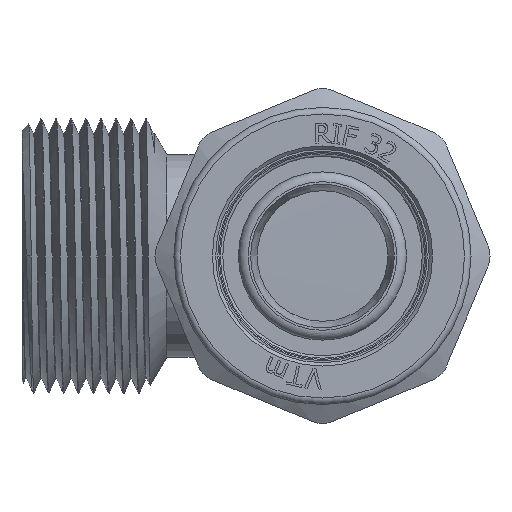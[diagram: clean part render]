
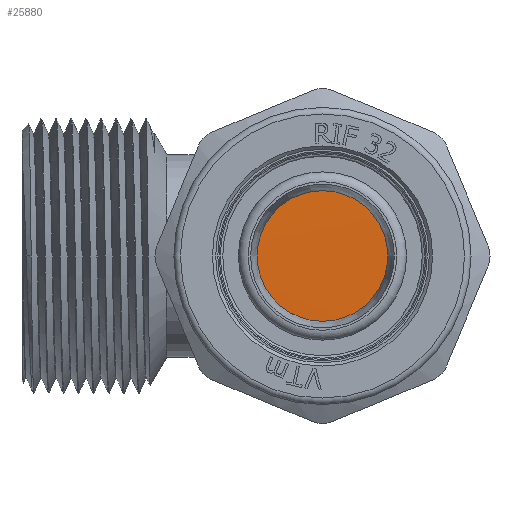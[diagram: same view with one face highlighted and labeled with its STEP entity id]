
A CAD part, left-side view. The second image highlights one B-rep face of the part: STEP entity #25880.
In plain terms, the highlighted cylindrical face has radius 21 mm (diameter 42 mm), a full revolution.
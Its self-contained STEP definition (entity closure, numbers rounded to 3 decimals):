
#2023=FACE_OUTER_BOUND('',#3484,.T.);
#3484=EDGE_LOOP('',(#17386,#17387,#17388));
#5071=B_SPLINE_CURVE_WITH_KNOTS('',3,(#33937,#33938,#33939,#33940,#33941,
#33942,#33943,#33944,#33945,#33946,#33947,#33948,#33949,#33950,#33951,#33952,
#33953),.UNSPECIFIED.,.F.,.F.,(4,1,1,1,1,1,1,1,1,1,1,1,1,1,4),(37.699,
37.812,38.309,38.807,39.304,39.801,
40.298,40.795,41.292,41.789,42.286,
42.783,43.28,43.777,43.982),
 .UNSPECIFIED.);
#6799=LINE('',#33061,#8585);
#6811=LINE('',#33936,#8597);
#8585=VECTOR('',#28651,21.);
#8597=VECTOR('',#28693,21.);
#10373=VERTEX_POINT('',#33059);
#10374=VERTEX_POINT('',#33060);
#10402=VERTEX_POINT('',#33935);
#13177=EDGE_CURVE('',#10373,#10374,#6799,.T.);
#13215=EDGE_CURVE('',#10402,#10374,#6811,.T.);
#13216=EDGE_CURVE('',#10402,#10373,#5071,.T.);
#17386=ORIENTED_EDGE('',*,*,#13177,.T.);
#17387=ORIENTED_EDGE('',*,*,#13215,.F.);
#17388=ORIENTED_EDGE('',*,*,#13216,.T.);
#25670=CYLINDRICAL_SURFACE('',#27364,21.);
#25880=ADVANCED_FACE('',(#2023),#25670,.T.);
#27364=AXIS2_PLACEMENT_3D('',#33934,#28691,#28692);
#28651=DIRECTION('',(-1.,0.,0.));
#28691=DIRECTION('center_axis',(-1.,0.,0.));
#28692=DIRECTION('ref_axis',(0.,-1.,0.));
#28693=DIRECTION('',(1.,0.,0.));
#33059=CARTESIAN_POINT('',(-25.5,21.,0.));
#33060=CARTESIAN_POINT('',(-26.9,21.,0.));
#33061=CARTESIAN_POINT('',(-29.626,21.,0.));
#33934=CARTESIAN_POINT('Origin',(-29.626,0.,0.));
#33935=CARTESIAN_POINT('',(-27.,21.,0.));
#33936=CARTESIAN_POINT('',(-29.626,21.,0.));
#33937=CARTESIAN_POINT('Ctrl Pts',(-27.,21.,0.001));
#33938=CARTESIAN_POINT('Ctrl Pts',(-26.991,21.001,0.794));
#33939=CARTESIAN_POINT('Ctrl Pts',(-26.942,20.763,5.065));
#33940=CARTESIAN_POINT('Ctrl Pts',(-26.854,17.933,12.543));
#33941=CARTESIAN_POINT('Ctrl Pts',(-26.736,9.782,19.577));
#33942=CARTESIAN_POINT('Ctrl Pts',(-26.617,-0.737,
21.872));
#33943=CARTESIAN_POINT('Ctrl Pts',(-26.498,-11.077,18.874));
#33944=CARTESIAN_POINT('Ctrl Pts',(-26.38,-18.737,11.308));
#33945=CARTESIAN_POINT('Ctrl Pts',(-26.261,-21.861,
1.005));
#33946=CARTESIAN_POINT('Ctrl Pts',(-26.142,-19.695,
-9.541));
#33947=CARTESIAN_POINT('Ctrl Pts',(-26.024,-12.762,-17.778));
#33948=CARTESIAN_POINT('Ctrl Pts',(-25.905,-2.74,
-21.712));
#33949=CARTESIAN_POINT('Ctrl Pts',(-25.786,7.945,-20.392));
#33950=CARTESIAN_POINT('Ctrl Pts',(-25.668,16.707,-14.136));
#33951=CARTESIAN_POINT('Ctrl Pts',(-25.572,20.502,-6.353));
#33952=CARTESIAN_POINT('Ctrl Pts',(-25.516,20.999,-1.437));
#33953=CARTESIAN_POINT('Ctrl Pts',(-25.5,20.998,0.));
